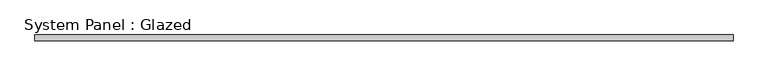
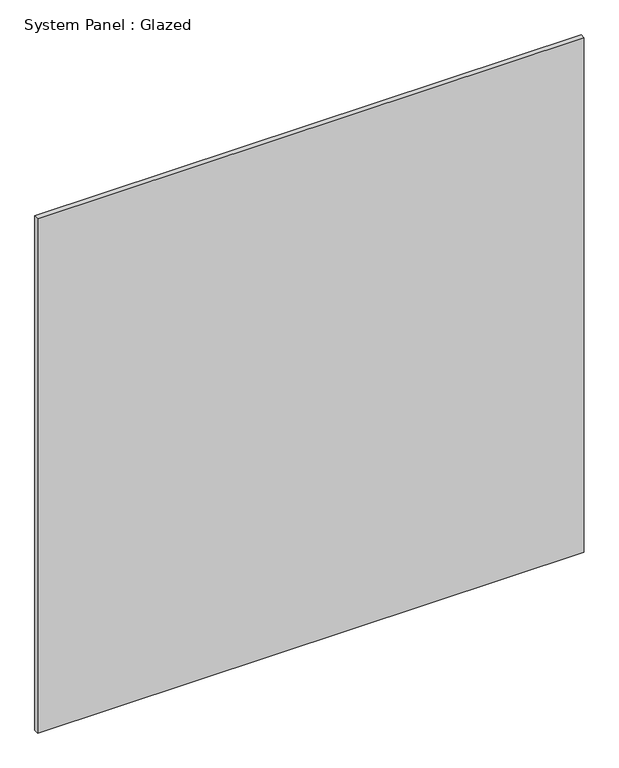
"""IFC4 building model written with IfcOpenShell, lengths in millimetres: plate geometry, System Panel : Glazed."""

from ifc_helpers import new_model, si_unit, origin, origin_with_axes, place, context, project, spatial, polyline, outline, extrude, source, transform, mapped, element, save


def system_panel_glazed_bd540f61(model_context):
    return source(origin(), model_context, "Body", "SweptSolid", [
        extrude(outline(polyline([(1484.3125, 19.05), (-1484.3125, 19.05), (-1484.3125, 44.45), (1484.3125, 44.45), (1484.3125, 19.05)])), origin_with_axes(), (0.0, 0.0, 1.0), 2952.75),
    ])


if __name__ == "__main__":
    model = new_model("IFC4")
    model_context = context("Model", 3, world=origin())
    ifc_project = project(units=[si_unit("LENGTHUNIT", "METRE", prefix="MILLI")], contexts=[model_context])
    site = spatial("IfcSite", under=ifc_project)
    building = spatial("IfcBuilding", under=site)
    placement = place(None, origin())
    system_panel_glazed_shape = system_panel_glazed_bd540f61(model_context)
    element("IfcPlate", 1, ObjectType="System Panel : Glazed", at=placement, inside=building, context=model_context, shape_type="MappedRepresentation", body=[
        mapped(system_panel_glazed_shape, transform((0.0, 0.0, 0.0), x_axis=(1.0, 0.0, 0.0), y_axis=(0.0, 1.0, 0.0), z_axis=(0.0, 0.0, 1.0))),
    ])
    save(model, "model.ifc")
